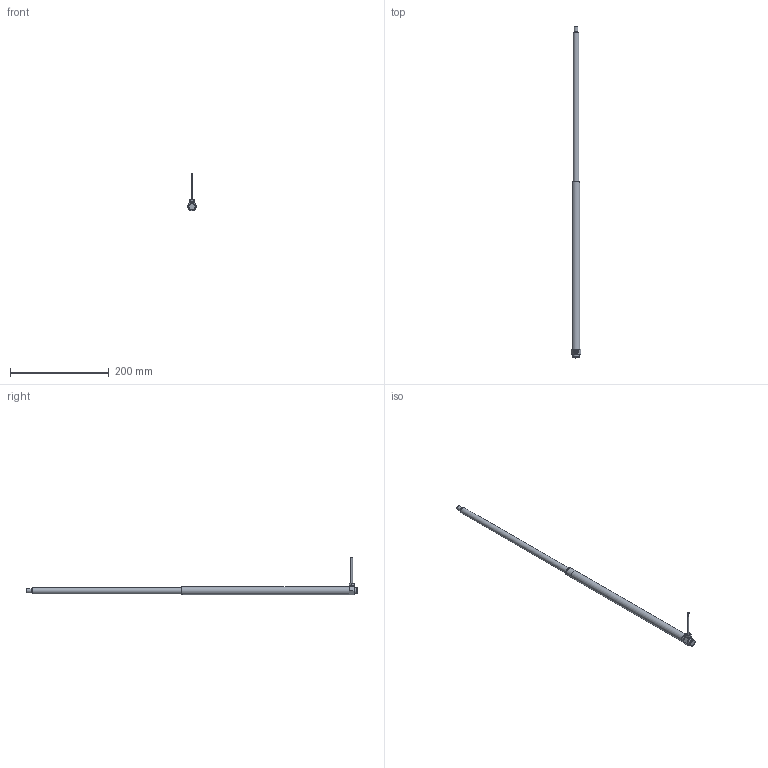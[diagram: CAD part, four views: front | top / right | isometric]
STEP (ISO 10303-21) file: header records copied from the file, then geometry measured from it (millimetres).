
FILE_DESCRIPTION(/* description */ ('Unknown'),/* implementation_level */ '2;1');
FILE_NAME(/* name */ '107.00143 Zylinder CH 1430_ausgefahren',/* time_stamp */ '2018-06-21T14:52:57+02:00',/* author */ ('Unknown'),/* organization */ ('Unknown'),/* preprocessor_version */ 'ST-DEVELOPER v16.7',/* originating_system */ 'DEX',/* authorisation */ $);
FILE_SCHEMA (('AUTOMOTIVE_DESIGN {1 0 10303 214 3 1 1}'));
Length unit declared in the file: millimetre
Products named in the file (9): 107.00143; 121.00003; 142.00021; 125.00021; 115.00001_oa_0; 125.00033; 120.00023; 122.00001; 113.00002_70mm
Assembly tree (8 placements, depth 2):
  107.00143
    121.00003
    142.00021
    125.00021
    115.00001_oa_0
    125.00033
    120.00023
    122.00001
    113.00002_70mm
Bounding box: 19.63 x 671 x 76.5 mm (x, y, z)
Volume: 58757.7 mm3; surface area: 50363.1 mm2
Topology: 7 solids, 7 shells, 97 faces, 197 edges, 125 vertices
Faces by surface type: plane 38, cylinder 29, cone 24, torus 5, sphere 1
Full cylindrical faces by diameter (mm): 2.2 x1, 2.78 x1, 3.5 x1, 4 x1, 4.1 x1, 4.2 x1, 6 x1, 6.917 x2, 7.763 x2, 8 x4, 8.1 x3, 9 x1, 12 x2, 12.5 x1, 13 x2, 13.9 x2, 14 x2, 16 x1
Entity records: 2964 total; most frequent: CARTESIAN_POINT 416, DIRECTION 406, ORIENTED_EDGE 258, AXIS2_PLACEMENT_3D 185, FACE_BOUND 174, EDGE_LOOP 172, EDGE_CURVE 129, VERTEX_POINT 113
